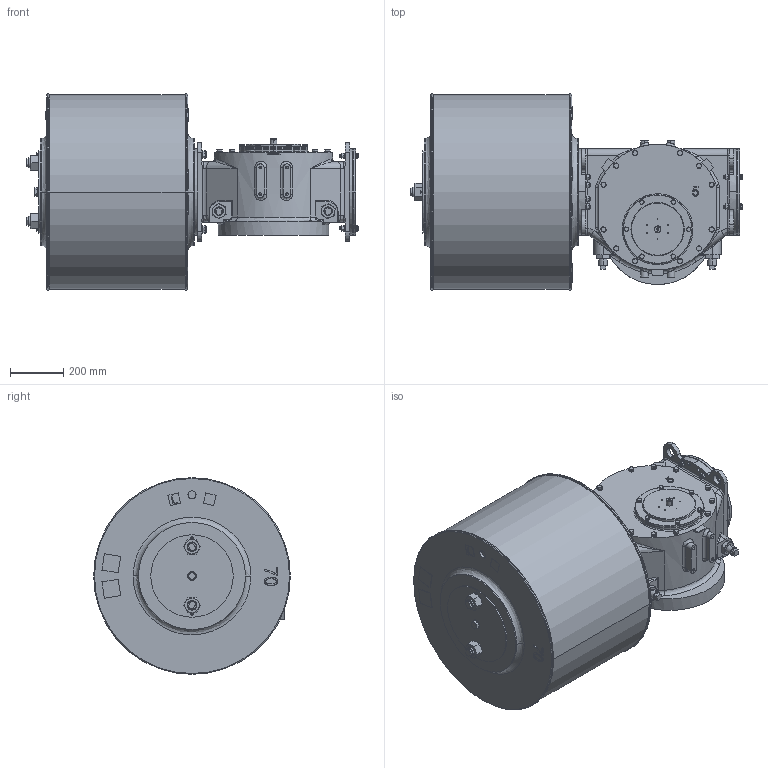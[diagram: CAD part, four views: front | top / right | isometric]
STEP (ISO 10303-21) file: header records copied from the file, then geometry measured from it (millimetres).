
FILE_DESCRIPTION (( 'STEP AP203' ), '1' );
FILE_NAME ('VTS5-700.STEP', '2023-01-01T09:51:28', ( '' ), ( '' ), 'SwSTEP 2.0', 'SolidWorks 2020', '' );
FILE_SCHEMA (( 'CONFIG_CONTROL_DESIGN' ));
Length unit declared in the file: millimetre
Products named in the file (1): VTS5-700
Bounding box: 1247.68 x 739 x 739 mm (x, y, z)
Volume: 294468200.9 mm3; surface area: 3935655 mm2
Topology: 3 solids, 6 shells, 1985 faces, 5086 edges, 3203 vertices
Faces by surface type: plane 831, cylinder 623, cone 446, bspline 85
Entity records: 72556 total; most frequent: CARTESIAN_POINT 25311, ORIENTED_EDGE 10028, DIRECTION 9762, EDGE_CURVE 5014, AXIS2_PLACEMENT_3D 3855, VERTEX_POINT 3203, EDGE_LOOP 2241, VECTOR 2052
